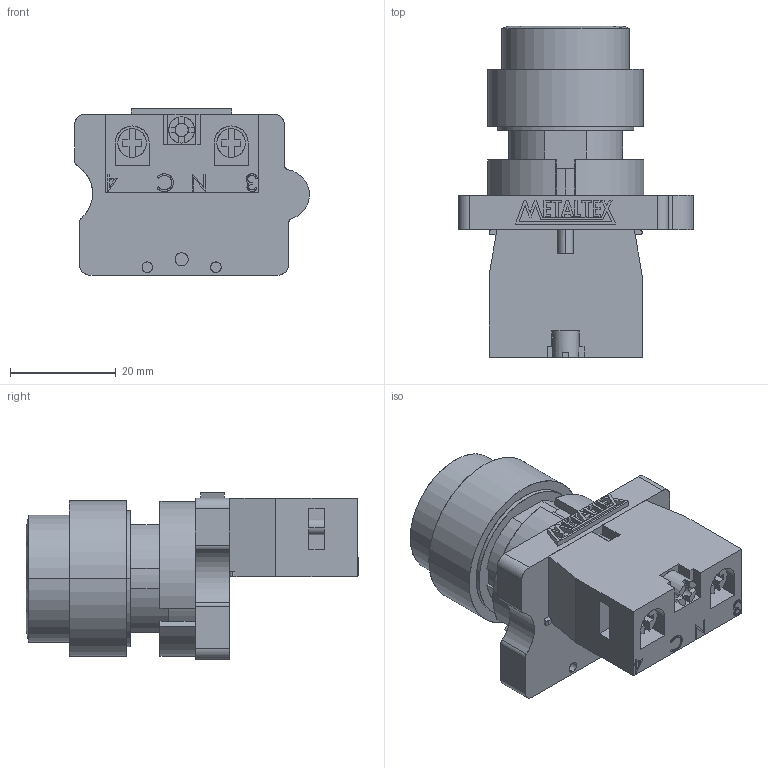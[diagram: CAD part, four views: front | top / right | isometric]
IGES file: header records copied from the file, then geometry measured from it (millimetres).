
Start section: SolidWorks IGES file using analytic representation for surfaces
Global section: file name: D:\X - Arquivos\PROEX\Empresas\P11 - METALTEX\01 - Produtos\IGES\Segunda remessa\P20ARR-B-1A.IGS; native system: SolidWorks 2012; preprocessor: SolidWorks 2012; author: Usuario; date: 180117.120205; units: millimetre
Bounding box: 44.44 x 62.87 x 31.5 mm (x, y, z)
Surface area: 12159.7 mm2 (no closed solid volume)
Topology: 0 solids, 0 shells, 357 faces, 3772 edges, 3770 vertices
Faces by surface type: bspline 285, revolution 72
